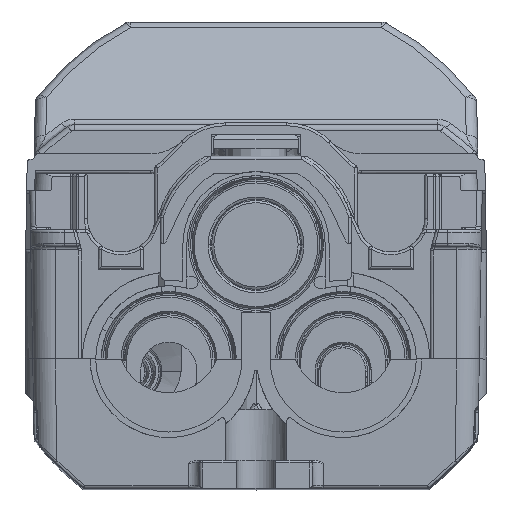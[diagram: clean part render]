
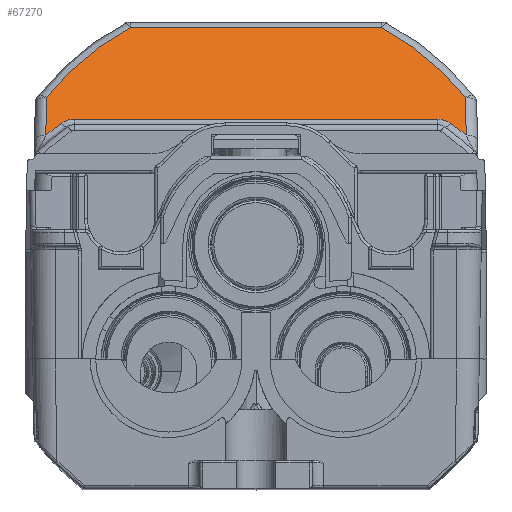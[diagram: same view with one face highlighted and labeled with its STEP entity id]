
A CAD part, top view. The second image highlights one B-rep face of the part: STEP entity #67270.
In plain terms, the highlighted planar face has unit normal (0, 0.5, 0.866).
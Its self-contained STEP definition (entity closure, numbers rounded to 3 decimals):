
#345 = CARTESIAN_POINT ( 'NONE',  ( -35.539, 64.302, 121.795 ) ) ;
#1643 = DIRECTION ( 'NONE',  ( -0.015, 0.866, -0.5 ) ) ;
#2332 = DIRECTION ( 'NONE',  ( -0.015, -0.866, 0.5 ) ) ;
#2686 = EDGE_CURVE ( 'NONE', #55247, #35515, #46244, .T. ) ;
#3507 =( BOUNDED_CURVE ( )  B_SPLINE_CURVE ( 3, ( #66855, #56237, #35369, #3689 ),
 .UNSPECIFIED., .F., .F. ) 
 B_SPLINE_CURVE_WITH_KNOTS ( ( 4, 4 ),
 ( 2.527, 3.142 ),
 .UNSPECIFIED. ) 
 CURVE ( )  GEOMETRIC_REPRESENTATION_ITEM ( )  RATIONAL_B_SPLINE_CURVE ( ( 1., 0.969, 0.969, 1. ) ) 
 REPRESENTATION_ITEM ( '' )  );
#3689 = CARTESIAN_POINT ( 'NONE',  ( 32.289, 65.7, 120.988 ) ) ;
#4002 = VECTOR ( 'NONE', #23021, 1000. ) ;
#4460 = CARTESIAN_POINT ( 'NONE',  ( 34.595, 64.968, 121.411 ) ) ;
#4587 = CARTESIAN_POINT ( 'NONE',  ( 32.289, 65.7, 120.988 ) ) ;
#4971 = ORIENTED_EDGE ( 'NONE', *, *, #10871, .F. ) ;
#5028 = VERTEX_POINT ( 'NONE', #4587 ) ;
#5267 = PLANE ( 'NONE',  #59757 ) ;
#6770 = ORIENTED_EDGE ( 'NONE', *, *, #2686, .T. ) ;
#7468 = CARTESIAN_POINT ( 'NONE',  ( 71.104, 82., 111.577 ) ) ;
#7905 = ORIENTED_EDGE ( 'NONE', *, *, #45176, .T. ) ;
#7982 = VECTOR ( 'NONE', #14160, 1000. ) ;
#8051 = ORIENTED_EDGE ( 'NONE', *, *, #49736, .T. ) ;
#8092 = EDGE_LOOP ( 'NONE', ( #4971, #27221, #38833, #56888, #7905, #45439, #6770, #18258, #8051, #49808 ) ) ;
#8503 = VERTEX_POINT ( 'NONE', #41118 ) ;
#9993 = FACE_OUTER_BOUND ( 'NONE', #8092, .T. ) ;
#10356 = CARTESIAN_POINT ( 'NONE',  ( 71.104, 59.5, 124.568 ) ) ;
#10871 = EDGE_CURVE ( 'NONE', #37393, #32707, #47456, .T. ) ;
#12049 = CARTESIAN_POINT ( 'NONE',  ( -33.121, 65.7, 120.988 ) ) ;
#13790 = EDGE_CURVE ( 'NONE', #36881, #32707, #40656, .T. ) ;
#14160 = DIRECTION ( 'NONE',  ( 1., 0., 0. ) ) ;
#14456 = CARTESIAN_POINT ( 'NONE',  ( -22.319, 82., 111.577 ) ) ;
#15097 = CARTESIAN_POINT ( 'NONE',  ( 37.368, 62.889, 122.611 ) ) ;
#15387 = CARTESIAN_POINT ( 'NONE',  ( -37.252, 69.541, 118.77 ) ) ;
#18258 = ORIENTED_EDGE ( 'NONE', *, *, #66304, .T. ) ;
#18492 =( BOUNDED_CURVE ( )  B_SPLINE_CURVE ( 3, ( #4460, #36142, #46815, #15097 ),
 .UNSPECIFIED., .F., .T. ) 
 B_SPLINE_CURVE_WITH_KNOTS ( ( 4, 4 ),
 ( 3.756, 3.814 ),
 .UNSPECIFIED. ) 
 CURVE ( )  GEOMETRIC_REPRESENTATION_ITEM ( )  RATIONAL_B_SPLINE_CURVE ( ( 1., 1., 1., 1. ) ) 
 REPRESENTATION_ITEM ( '' )  );
#19065 = VECTOR ( 'NONE', #2332, 1000. ) ;
#19910 = CARTESIAN_POINT ( 'NONE',  ( 28.123, 78.91, 113.361 ) ) ;
#21307 = DIRECTION ( 'NONE',  ( 0., -0.5, -0.866 ) ) ;
#23021 = DIRECTION ( 'NONE',  ( -1., 0., 0. ) ) ;
#24503 = EDGE_CURVE ( 'NONE', #37393, #5028, #48573, .T. ) ;
#25829 = CARTESIAN_POINT ( 'NONE',  ( -22.319, 82., 111.577 ) ) ;
#27221 = ORIENTED_EDGE ( 'NONE', *, *, #24503, .T. ) ;
#27767 = CARTESIAN_POINT ( 'NONE',  ( -32.289, 65.7, 120.988 ) ) ;
#27796 = CARTESIAN_POINT ( 'NONE',  ( -37.252, 69.541, 118.77 ) ) ;
#29120 = CARTESIAN_POINT ( 'NONE',  ( 37.252, 69.541, 118.77 ) ) ;
#30975 =( BOUNDED_CURVE ( )  B_SPLINE_CURVE ( 3, ( #25829, #31105, #47097, #15387 ),
 .UNSPECIFIED., .F., .F. ) 
 B_SPLINE_CURVE_WITH_KNOTS ( ( 4, 4 ),
 ( 0.489, 0.901 ),
 .UNSPECIFIED. ) 
 CURVE ( )  GEOMETRIC_REPRESENTATION_ITEM ( )  RATIONAL_B_SPLINE_CURVE ( ( 1., 0.986, 0.986, 1. ) ) 
 REPRESENTATION_ITEM ( '' )  );
#31105 = CARTESIAN_POINT ( 'NONE',  ( -28.123, 78.91, 113.361 ) ) ;
#31983 = CARTESIAN_POINT ( 'NONE',  ( 22.319, 82., 111.577 ) ) ;
#32073 = CARTESIAN_POINT ( 'NONE',  ( -37.368, 62.889, 122.611 ) ) ;
#32707 = VERTEX_POINT ( 'NONE', #46302 ) ;
#33074 = CARTESIAN_POINT ( 'NONE',  ( -32.289, 65.7, 120.988 ) ) ;
#35369 = CARTESIAN_POINT ( 'NONE',  ( 33.121, 65.7, 120.988 ) ) ;
#35515 = VERTEX_POINT ( 'NONE', #14456 ) ;
#36142 = CARTESIAN_POINT ( 'NONE',  ( 35.539, 64.302, 121.795 ) ) ;
#36881 = VERTEX_POINT ( 'NONE', #32073 ) ;
#37349 = CARTESIAN_POINT ( 'NONE',  ( -34.595, 64.968, 121.411 ) ) ;
#37393 = VERTEX_POINT ( 'NONE', #27767 ) ;
#38648 = CARTESIAN_POINT ( 'NONE',  ( 37.435, 59.059, 124.822 ) ) ;
#38833 = ORIENTED_EDGE ( 'NONE', *, *, #59663, .F. ) ;
#38970 = EDGE_CURVE ( 'NONE', #45908, #8503, #18492, .T. ) ;
#39348 = CARTESIAN_POINT ( 'NONE',  ( -37.402, 60.92, 123.748 ) ) ;
#40022 =( BOUNDED_CURVE ( )  B_SPLINE_CURVE ( 3, ( #29120, #40910, #19910, #56874 ),
 .UNSPECIFIED., .F., .F. ) 
 B_SPLINE_CURVE_WITH_KNOTS ( ( 4, 4 ),
 ( 5.382, 5.794 ),
 .UNSPECIFIED. ) 
 CURVE ( )  GEOMETRIC_REPRESENTATION_ITEM ( )  RATIONAL_B_SPLINE_CURVE ( ( 1., 0.986, 0.986, 1. ) ) 
 REPRESENTATION_ITEM ( '' )  );
#40656 =( BOUNDED_CURVE ( )  B_SPLINE_CURVE ( 3, ( #58461, #53118, #345, #37349 ),
 .UNSPECIFIED., .F., .F. ) 
 B_SPLINE_CURVE_WITH_KNOTS ( ( 4, 4 ),
 ( 2.469, 2.527 ),
 .UNSPECIFIED. ) 
 CURVE ( )  GEOMETRIC_REPRESENTATION_ITEM ( )  RATIONAL_B_SPLINE_CURVE ( ( 1., 1., 1., 1. ) ) 
 REPRESENTATION_ITEM ( '' )  );
#40910 = CARTESIAN_POINT ( 'NONE',  ( 33.172, 74.698, 115.793 ) ) ;
#41118 = CARTESIAN_POINT ( 'NONE',  ( 37.368, 62.889, 122.611 ) ) ;
#45176 = EDGE_CURVE ( 'NONE', #8503, #50365, #48464, .T. ) ;
#45439 = ORIENTED_EDGE ( 'NONE', *, *, #57824, .T. ) ;
#45869 = CARTESIAN_POINT ( 'NONE',  ( 32.917, 65.7, 120.988 ) ) ;
#45908 = VERTEX_POINT ( 'NONE', #64608 ) ;
#46244 = LINE ( 'NONE', #7468, #4002 ) ;
#46302 = CARTESIAN_POINT ( 'NONE',  ( -34.595, 64.968, 121.411 ) ) ;
#46815 = CARTESIAN_POINT ( 'NONE',  ( 36.464, 63.609, 122.196 ) ) ;
#47097 = CARTESIAN_POINT ( 'NONE',  ( -33.172, 74.698, 115.793 ) ) ;
#47456 =( BOUNDED_CURVE ( )  B_SPLINE_CURVE ( 3, ( #33074, #12049, #54379, #59724 ),
 .UNSPECIFIED., .F., .F. ) 
 B_SPLINE_CURVE_WITH_KNOTS ( ( 4, 4 ),
 ( 3.142, 3.756 ),
 .UNSPECIFIED. ) 
 CURVE ( )  GEOMETRIC_REPRESENTATION_ITEM ( )  RATIONAL_B_SPLINE_CURVE ( ( 1., 0.969, 0.969, 1. ) ) 
 REPRESENTATION_ITEM ( '' )  );
#48464 = LINE ( 'NONE', #38648, #51764 ) ;
#48573 = LINE ( 'NONE', #45869, #7982 ) ;
#49645 = VERTEX_POINT ( 'NONE', #27796 ) ;
#49736 = EDGE_CURVE ( 'NONE', #49645, #36881, #61263, .T. ) ;
#49808 = ORIENTED_EDGE ( 'NONE', *, *, #13790, .T. ) ;
#50365 = VERTEX_POINT ( 'NONE', #52875 ) ;
#51764 = VECTOR ( 'NONE', #1643, 1000. ) ;
#52875 = CARTESIAN_POINT ( 'NONE',  ( 37.252, 69.541, 118.77 ) ) ;
#53118 = CARTESIAN_POINT ( 'NONE',  ( -36.464, 63.609, 122.196 ) ) ;
#54379 = CARTESIAN_POINT ( 'NONE',  ( -33.915, 65.448, 121.134 ) ) ;
#55247 = VERTEX_POINT ( 'NONE', #31983 ) ;
#56237 = CARTESIAN_POINT ( 'NONE',  ( 33.915, 65.448, 121.134 ) ) ;
#56874 = CARTESIAN_POINT ( 'NONE',  ( 22.319, 82., 111.577 ) ) ;
#56888 = ORIENTED_EDGE ( 'NONE', *, *, #38970, .T. ) ;
#57824 = EDGE_CURVE ( 'NONE', #50365, #55247, #40022, .T. ) ;
#58273 = DIRECTION ( 'NONE',  ( 0., 0.866, -0.5 ) ) ;
#58461 = CARTESIAN_POINT ( 'NONE',  ( -37.368, 62.889, 122.611 ) ) ;
#59663 = EDGE_CURVE ( 'NONE', #45908, #5028, #3507, .T. ) ;
#59724 = CARTESIAN_POINT ( 'NONE',  ( -34.595, 64.968, 121.411 ) ) ;
#59757 = AXIS2_PLACEMENT_3D ( 'NONE', #10356, #21307, #58273 ) ;
#61263 = LINE ( 'NONE', #39348, #19065 ) ;
#64608 = CARTESIAN_POINT ( 'NONE',  ( 34.595, 64.968, 121.411 ) ) ;
#66304 = EDGE_CURVE ( 'NONE', #35515, #49645, #30975, .T. ) ;
#66855 = CARTESIAN_POINT ( 'NONE',  ( 34.595, 64.968, 121.411 ) ) ;
#67270 = ADVANCED_FACE ( 'NONE', ( #9993 ), #5267, .F. ) ;
